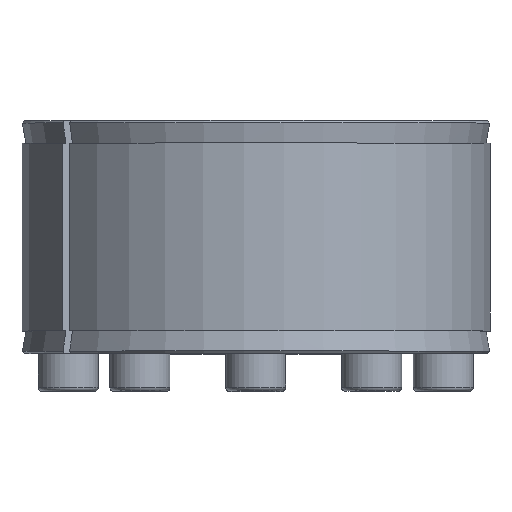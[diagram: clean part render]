
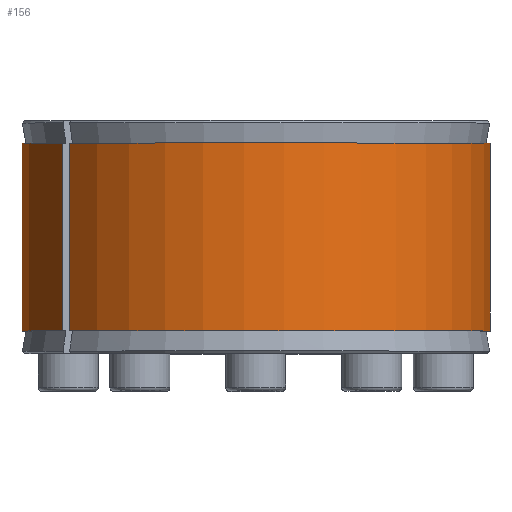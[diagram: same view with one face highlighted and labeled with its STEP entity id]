
A CAD part, top view. The second image highlights one B-rep face of the part: STEP entity #156.
In plain terms, the highlighted cylindrical face has radius 62.5 mm (diameter 125 mm), a partial arc.
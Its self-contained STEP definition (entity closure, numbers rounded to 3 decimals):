
#156 = ADVANCED_FACE( '', ( #370 ), #371, .T. );
#370 = FACE_OUTER_BOUND( '', #672, .T. );
#371 = CYLINDRICAL_SURFACE( '', #673, 62.5 );
#672 = EDGE_LOOP( '', ( #1118, #1119, #1120, #1121 ) );
#673 = AXIS2_PLACEMENT_3D( '', #1122, #1123, #1124 );
#1118 = ORIENTED_EDGE( '', *, *, #1707, .T. );
#1119 = ORIENTED_EDGE( '', *, *, #1708, .T. );
#1120 = ORIENTED_EDGE( '', *, *, #1624, .F. );
#1121 = ORIENTED_EDGE( '', *, *, #1709, .T. );
#1122 = CARTESIAN_POINT( '', ( 0., -60., 0. ) );
#1123 = DIRECTION( '', ( 0., 1., 0. ) );
#1124 = DIRECTION( '', ( 0., 0., -1. ) );
#1624 = EDGE_CURVE( '', #1957, #1958, #1959, .T. );
#1707 = EDGE_CURVE( '', #2095, #2096, #2097, .T. );
#1708 = EDGE_CURVE( '', #2096, #1958, #2098, .T. );
#1709 = EDGE_CURVE( '', #1957, #2095, #2099, .F. );
#1957 = VERTEX_POINT( '', #2506 );
#1958 = VERTEX_POINT( '', #2507 );
#1959 = CIRCLE( '', #2508, 62.5 );
#2095 = VERTEX_POINT( '', #2766 );
#2096 = VERTEX_POINT( '', #2767 );
#2097 = CIRCLE( '', #2768, 62.5 );
#2098 = LINE( '', #2769, #2770 );
#2099 = LINE( '', #2771, #2772 );
#2506 = CARTESIAN_POINT( '', ( -51.431, 6., 35.512 ) );
#2507 = CARTESIAN_POINT( '', ( -49.667, 6., 37.94 ) );
#2508 = AXIS2_PLACEMENT_3D( '', #3119, #3120, #3121 );
#2766 = CARTESIAN_POINT( '', ( -51.431, 56., 35.512 ) );
#2767 = CARTESIAN_POINT( '', ( -49.667, 56., 37.94 ) );
#2768 = AXIS2_PLACEMENT_3D( '', #3275, #3276, #3277 );
#2769 = CARTESIAN_POINT( '', ( -49.667, -60., 37.94 ) );
#2770 = VECTOR( '', #3278, 1000. );
#2771 = CARTESIAN_POINT( '', ( -51.431, -60., 35.512 ) );
#2772 = VECTOR( '', #3279, 1000. );
#3119 = CARTESIAN_POINT( '', ( 0., 6., 0. ) );
#3120 = DIRECTION( '', ( 0., -1., 0. ) );
#3121 = DIRECTION( '', ( 0., 0., -1. ) );
#3275 = CARTESIAN_POINT( '', ( 0., 56., 0. ) );
#3276 = DIRECTION( '', ( 0., -1., 0. ) );
#3277 = DIRECTION( '', ( 0., 0., -1. ) );
#3278 = DIRECTION( '', ( 0., -1., 0. ) );
#3279 = DIRECTION( '', ( 0., -1., 0. ) );
